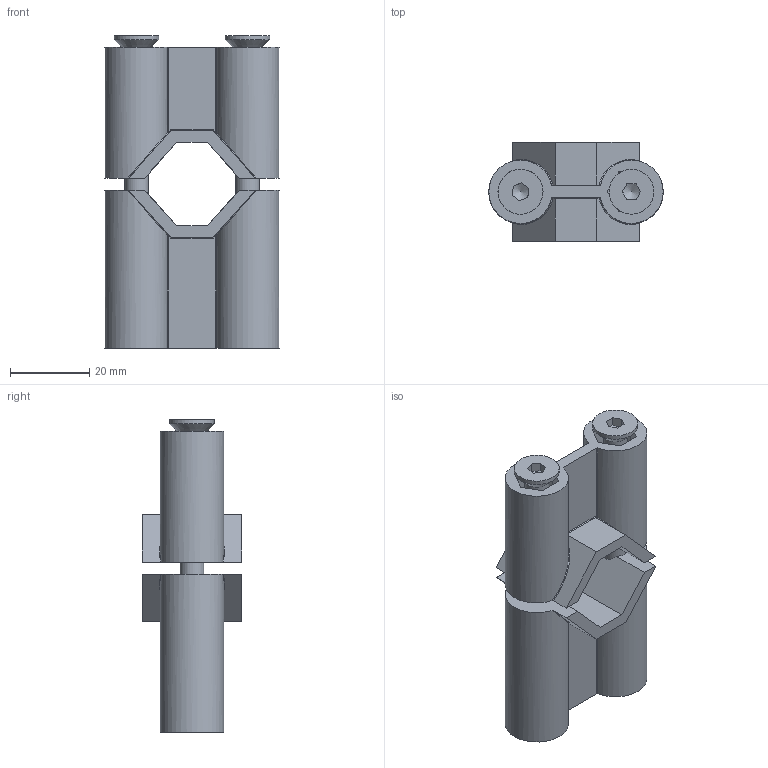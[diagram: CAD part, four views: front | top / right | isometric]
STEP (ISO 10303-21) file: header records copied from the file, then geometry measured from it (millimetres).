
FILE_DESCRIPTION((''),'2;1');
FILE_NAME('C:\Vault Klient\Projekt\Step\300-1060.stp','2009-12-07T13:16:12',('Mathias'),(''),'Autodesk Inventor 2010','Autodesk Inventor 2010','');
FILE_SCHEMA(('CONFIG_CONTROL_DESIGN'));
Length unit declared in the file: millimetre
Products named in the file (1): 300-1060
Bounding box: 44 x 25 x 79 mm (x, y, z)
Volume: 31608.5 mm3; surface area: 18600.6 mm2
Topology: 3 solids, 3 shells, 152 faces, 384 edges, 242 vertices
Faces by surface type: plane 90, cylinder 32, bspline 18, cone 12
Full cylindrical faces by diameter (mm): 6 x2, 6.5 x4, 11.34 x2
Entity records: 5124 total; most frequent: CARTESIAN_POINT 1523, ORIENTED_EDGE 704, DIRECTION 674, EDGE_CURVE 352, VERTEX_POINT 232, AXIS2_PLACEMENT_3D 231, VECTOR 212, LINE 212
